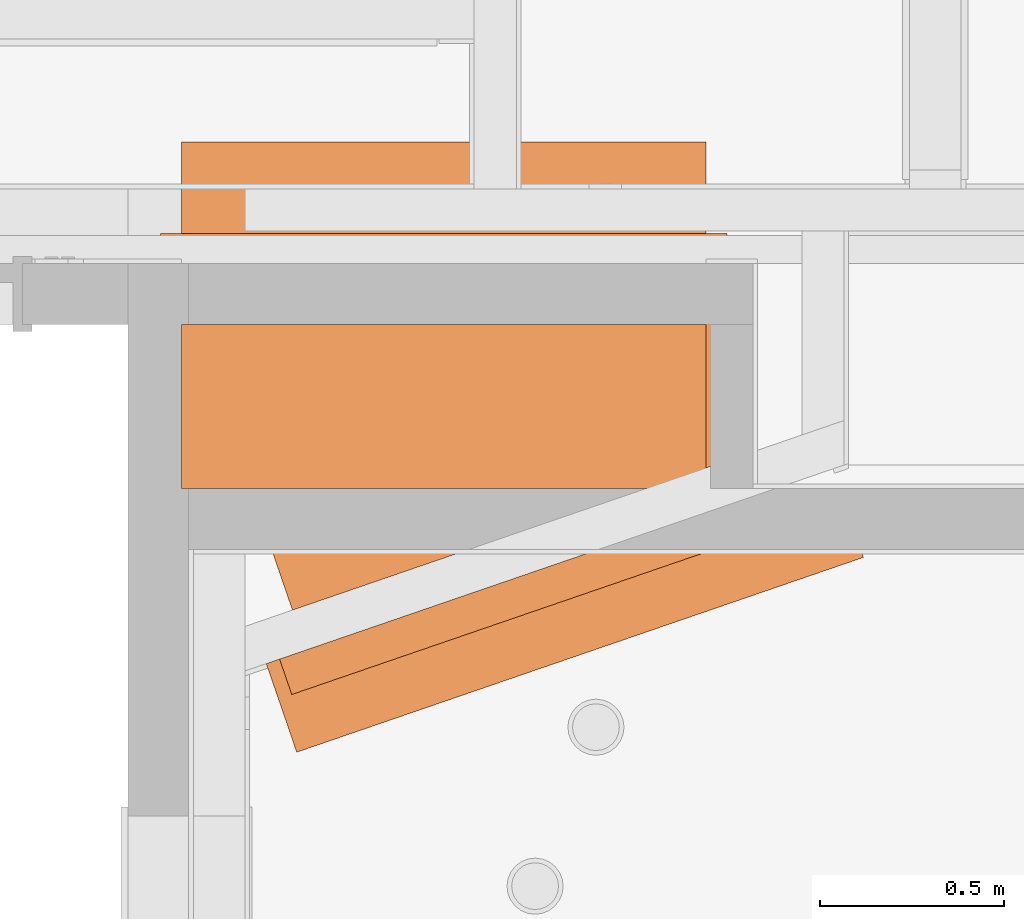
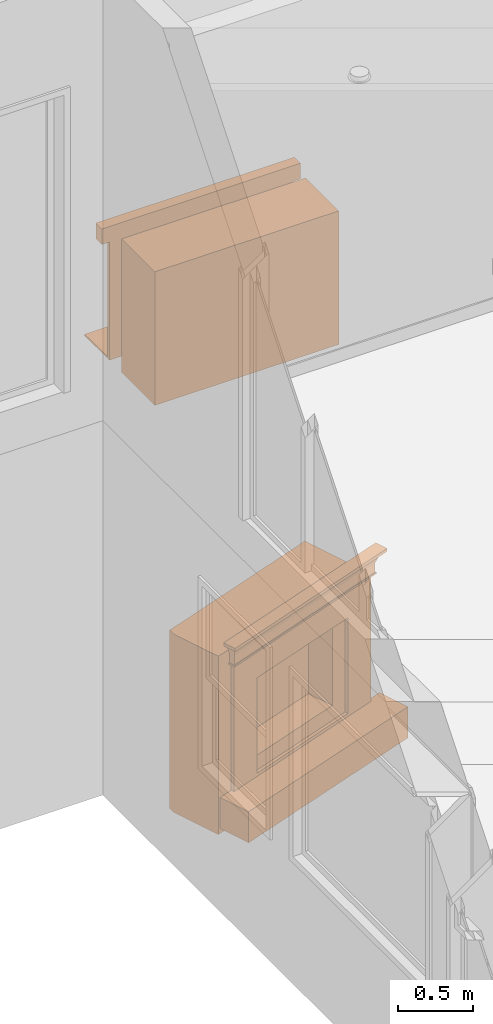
# One storey, part 59 of 60: 2 proxies.
"""IFC2X3 building model written with IfcOpenShell, lengths in feet."""

from ifc_helpers import new_model, entity, si_unit, converted_unit, direction, origin, place, context, subcontext, project, spatial, faceted_brep, source, transform, mapped, material, material_list, type_object, type_shapes, element, save


model = new_model("IFC2X3")

# Units and contexts
model_context = context("Model", 3, precision=0.0001, world=origin(), true_north=direction((6.123031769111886e-17, 1.0)))
plan_context = context("Plan", 3, precision=0.0001, world=origin(), true_north=direction((6.123031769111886e-17, 1.0)))
body_context = subcontext(model_context, "Body", "Model", "MODEL_VIEW")
ifc_project = project(units=[converted_unit("LENGTHUNIT", "FOOT", entity("IfcLengthMeasure", 0.3048), si_unit("LENGTHUNIT", "METRE"), dimensions=[1, 0, 0, 0, 0, 0, 0]), converted_unit("AREAUNIT", "SQUARE FOOT", entity("IfcAreaMeasure", 0.09290304), si_unit("AREAUNIT", "SQUARE_METRE"), dimensions=[2, 0, 0, 0, 0, 0, 0]), converted_unit("PLANEANGLEUNIT", "DEGREE", entity("IfcPlaneAngleMeasure", 0.017453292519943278), si_unit("PLANEANGLEUNIT", "RADIAN"), dimensions=[0, 0, 0, 0, 0, 0, 0])], contexts=[model_context, plan_context])

# Site, building, storey
site_placement = place(None, origin())
site = spatial("IfcSite", under=ifc_project, at=site_placement, Name="Default", CompositionType="ELEMENT")
building_placement = place(site_placement, origin())
building = spatial("IfcBuilding", under=site, at=building_placement, CompositionType="ELEMENT")
storey_placement = place(building_placement, origin())
storey = spatial("IfcBuildingStorey", under=building, at=storey_placement, Name="First floor", CompositionType="ELEMENT", Elevation=0.0)

# Proxies
ifc_material_1 = material(Name="Default New Material")
ifc_material_2 = material(Name="Glass")
ifc_material_list = material_list([ifc_material_1, ifc_material_2])
building_element_proxy_type_1 = type_object("IfcBuildingElementProxyType", Name="Generic Models 16:Generic Models 16", PredefinedType="NOTDEFINED", material=ifc_material_list)
shared_shape_1 = source(origin(), body_context, "Body", "Brep", [
    faceted_brep([(-11.89582225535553, 31.583333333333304, 13.833333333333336), (-11.70832225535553, 31.583333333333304, 13.833333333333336), (-11.70832225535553, 31.583333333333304, 14.250000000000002), (-11.89582225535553, 31.583333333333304, 14.250000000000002), (-11.708322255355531, 31.854166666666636, 14.250000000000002), (-16.74998892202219, 31.85416666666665, 14.250000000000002), (-16.74998892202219, 31.58333333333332, 14.250000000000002), (-16.56248892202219, 31.58333333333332, 14.250000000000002), (-16.56248892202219, 31.66666666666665, 14.250000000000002), (-11.895822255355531, 31.666666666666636, 14.250000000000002), (-11.895822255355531, 31.666666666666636, 13.833333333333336), (-16.56248892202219, 31.66666666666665, 13.833333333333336), (-16.56248892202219, 31.58333333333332, 13.833333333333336), (-16.74998892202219, 31.58333333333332, 13.833333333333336), (-16.74998892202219, 31.85416666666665, 13.833333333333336), (-11.70832225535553, 31.854166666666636, 13.833333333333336)], [[[0, 1, 2, 3]], [[3, 2, 4, 5, 6, 7, 8, 9]], [[0, 3, 9, 10]], [[10, 9, 8, 11]], [[12, 7, 6, 13]], [[11, 8, 7, 12]], [[1, 0, 10, 11, 12, 13, 14, 15]], [[2, 1, 15, 4]], [[4, 15, 14, 5]], [[5, 14, 13, 6]]]),
    faceted_brep([(-16.562488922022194, 31.666666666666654, 10.708333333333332), (-11.895822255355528, 31.66666666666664, 10.708333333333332), (-11.895822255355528, 32.66666666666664, 10.708333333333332), (-16.562488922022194, 32.66666666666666, 10.708333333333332), (-16.562488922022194, 31.666666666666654, 10.666666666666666), (-16.562488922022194, 32.66666666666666, 10.666666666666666), (-11.895822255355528, 32.66666666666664, 10.666666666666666), (-11.895822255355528, 31.66666666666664, 10.666666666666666)], [[[0, 1, 2, 3]], [[4, 5, 6, 7]], [[1, 0, 4, 7]], [[2, 1, 7, 6]], [[3, 2, 6, 5]], [[0, 3, 5, 4]]]),
    faceted_brep([(-12.812488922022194, 31.479166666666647, 12.854166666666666), (-15.64582225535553, 31.479166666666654, 12.854166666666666), (-15.64582225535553, 31.479166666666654, 11.083333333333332), (-12.81248892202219, 31.479166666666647, 11.083333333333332), (-12.812488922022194, 31.520833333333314, 12.854166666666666), (-12.81248892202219, 31.520833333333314, 11.083333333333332), (-15.64582225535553, 31.52083333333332, 11.083333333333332), (-15.64582225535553, 31.52083333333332, 12.854166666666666)], [[[0, 1, 2, 3]], [[4, 5, 6, 7]], [[5, 4, 0, 3]], [[6, 5, 3, 2]], [[7, 6, 2, 1]], [[4, 7, 1, 0]]]),
    faceted_brep([(-15.812488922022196, 31.416666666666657, 13.1875), (-15.812488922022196, 31.416666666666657, 10.812500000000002), (-12.645822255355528, 31.416666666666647, 10.812500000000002), (-12.645822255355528, 31.416666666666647, 13.1875), (-12.812488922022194, 31.416666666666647, 12.854166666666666), (-12.81248892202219, 31.416666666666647, 11.083333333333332), (-15.64582225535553, 31.416666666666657, 11.083333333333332), (-15.64582225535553, 31.416666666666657, 12.854166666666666), (-15.812488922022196, 31.583333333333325, 13.1875), (-12.645822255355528, 31.583333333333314, 13.1875), (-12.645822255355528, 31.583333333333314, 10.812500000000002), (-15.812488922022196, 31.583333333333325, 10.812500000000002), (-12.812488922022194, 31.583333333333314, 12.854166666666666), (-15.64582225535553, 31.583333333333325, 12.854166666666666), (-15.645822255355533, 31.583333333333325, 11.083333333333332), (-12.81248892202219, 31.583333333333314, 11.083333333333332)], [[[0, 1, 2, 3], [4, 5, 6, 7]], [[8, 9, 10, 11], [12, 13, 14, 15]], [[1, 0, 8, 11]], [[2, 1, 11, 10]], [[3, 2, 10, 9]], [[0, 3, 9, 8]], [[5, 4, 12, 15]], [[6, 5, 15, 14]], [[7, 6, 14, 13]], [[4, 7, 13, 12]]]),
    faceted_brep([(-11.895822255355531, 29.583333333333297, 14.250000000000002), (-16.49999999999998, 29.58333333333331, 14.250000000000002), (-16.562488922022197, 29.58333333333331, 14.250000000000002), (-16.562488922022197, 29.58333333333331, 10.666666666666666), (-16.49999999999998, 29.58333333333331, 10.666666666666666), (-11.895822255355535, 29.583333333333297, 10.666666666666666), (-11.89582225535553, 31.041666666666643, 14.250000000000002), (-11.895822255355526, 31.041666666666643, 10.666666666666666), (-16.499999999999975, 31.041666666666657, 10.666666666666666), (-16.562488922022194, 31.041666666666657, 10.666666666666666), (-16.562488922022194, 31.041666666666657, 14.250000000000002), (-16.499999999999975, 31.041666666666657, 14.250000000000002), (-12.64582225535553, 31.041666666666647, 10.812500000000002), (-12.64582225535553, 31.041666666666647, 13.1875), (-15.812488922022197, 31.041666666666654, 13.1875), (-15.812488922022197, 31.041666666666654, 10.812500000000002), (-12.64582225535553, 30.892313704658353, 10.812500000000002), (-15.812488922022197, 30.892313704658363, 10.812500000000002), (-15.812488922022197, 30.892313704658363, 13.1875), (-12.64582225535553, 30.892313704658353, 13.1875)], [[[0, 1, 2, 3, 4, 5]], [[6, 7, 8, 9, 10, 11], [12, 13, 14, 15]], [[0, 5, 7, 6]], [[5, 4, 3, 9, 8, 7]], [[3, 2, 10, 9]], [[2, 1, 0, 6, 11, 10]], [[16, 17, 18, 19]], [[16, 19, 13, 12]], [[19, 18, 14, 13]], [[18, 17, 15, 14]], [[17, 16, 12, 15]]]),
    faceted_brep([(-12.645822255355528, 31.666666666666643, 10.812500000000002), (-12.645822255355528, 31.666666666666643, 13.1875), (-15.812488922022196, 31.666666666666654, 13.1875), (-15.812488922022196, 31.666666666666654, 10.812500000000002), (-11.895822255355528, 31.66666666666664, 10.666666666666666), (-16.562488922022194, 31.666666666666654, 10.666666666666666), (-16.562488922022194, 31.666666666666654, 14.250000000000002), (-11.895822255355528, 31.66666666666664, 14.250000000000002), (-12.645822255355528, 31.58333333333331, 10.812500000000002), (-15.812488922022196, 31.58333333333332, 10.812500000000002), (-15.812488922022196, 31.58333333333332, 13.1875), (-12.645822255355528, 31.58333333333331, 13.1875), (-11.895822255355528, 31.583333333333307, 10.666666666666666), (-11.895822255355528, 31.583333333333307, 14.250000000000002), (-16.562488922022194, 31.58333333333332, 14.250000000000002), (-16.562488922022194, 31.58333333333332, 10.666666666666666)], [[[0, 1, 2, 3], [4, 5, 6, 7]], [[8, 9, 10, 11], [12, 13, 14, 15]], [[0, 3, 9, 8]], [[3, 2, 10, 9]], [[2, 1, 11, 10]], [[1, 0, 8, 11]], [[5, 4, 12, 15]], [[6, 5, 15, 14]], [[7, 6, 14, 13]], [[4, 7, 13, 12]]], outer=[[False, True], [False, True], [True], [True], [True], [True], [True], [True], [True], [True]]),
])
type_shapes(building_element_proxy_type_1, [shared_shape_1])
proxy_1_placement = place(storey_placement, origin())
element("IfcBuildingElementProxy", 1, at=proxy_1_placement, inside=storey, type_object=building_element_proxy_type_1, material=ifc_material_list, Name="Generic Models 16:Generic Models 16", ObjectType="Generic Models 16:Generic Models 16", context=body_context, shape_type="MappedRepresentation", body=[
    mapped(shared_shape_1, transform((0.0, 0.0, 0.0), scale=1.0)),
])
building_element_proxy_type_2 = type_object("IfcBuildingElementProxyType", Name="Generic Models 15:Generic Models 4", PredefinedType="NOTDEFINED", material=ifc_material_1)
shared_shape_2 = source(origin(), body_context, "Body", "Brep", [
    faceted_brep([(-15.690626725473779, 28.06468039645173, 4.916666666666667), (-15.582266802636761, 27.749451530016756, 4.916666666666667), (-10.775026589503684, 29.40194035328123, 4.916666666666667), (-10.883386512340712, 29.717169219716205, 4.916666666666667), (-15.690626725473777, 28.06468039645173, 4.833333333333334), (-10.883386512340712, 29.717169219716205, 4.833333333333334), (-10.775026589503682, 29.40194035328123, 4.833333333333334), (-15.582266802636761, 27.749451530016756, 4.833333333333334)], [[[0, 1, 2, 3]], [[4, 5, 6, 7]], [[1, 0, 4, 7]], [[2, 1, 7, 6]], [[3, 2, 6, 5]], [[0, 3, 5, 4]]]),
    faceted_brep([(-15.61181950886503, 28.091770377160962, 4.833333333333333), (-15.454205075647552, 28.145950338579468, 4.833333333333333), (-15.454205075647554, 28.145950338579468, 4.25), (-15.533012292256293, 28.118860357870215, 4.25), (-15.533012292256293, 28.118860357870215, 4.291666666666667), (-15.513310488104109, 28.125632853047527, 4.291666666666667), (-15.513310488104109, 28.125632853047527, 4.541666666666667), (-15.530549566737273, 27.855348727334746, 4.833333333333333), (-10.880923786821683, 29.453657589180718, 4.833333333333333), (-10.962193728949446, 29.690079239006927, 4.833333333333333), (-11.119808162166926, 29.635899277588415, 4.833333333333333), (-11.092718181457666, 29.557092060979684, 4.833333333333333), (-15.427115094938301, 28.067143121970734, 4.833333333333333), (-15.427115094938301, 28.067143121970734, 4.25), (-11.092718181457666, 29.557092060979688, 4.25), (-11.11980816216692, 29.63589927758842, 4.25), (-11.041000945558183, 29.66298925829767, 4.25), (-10.98682098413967, 29.5053748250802, 4.25), (-15.478832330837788, 27.96124592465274, 4.25), (-15.478832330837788, 27.96124592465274, 4.291666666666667), (-10.986820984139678, 29.505374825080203, 4.291666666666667), (-11.041000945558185, 29.662989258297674, 4.291666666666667), (-11.060702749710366, 29.65621676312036, 4.291666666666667), (-11.013295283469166, 29.518304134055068, 4.291666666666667), (-15.465903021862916, 27.987720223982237, 4.291666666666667), (-15.465903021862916, 27.987720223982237, 4.541666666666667), (-11.013295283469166, 29.518304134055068, 4.541666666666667), (-11.060702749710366, 29.656216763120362, 4.541666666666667)], [[[0, 1, 2, 3, 4, 5, 6]], [[1, 0, 7, 8, 9, 10, 11, 12]], [[2, 1, 12, 13]], [[3, 2, 13, 14, 15, 16, 17, 18]], [[4, 3, 18, 19]], [[5, 4, 19, 20, 21, 22, 23, 24]], [[6, 5, 24, 25]], [[0, 6, 25, 7]], [[13, 12, 11, 14]], [[19, 18, 17, 20]], [[25, 24, 23, 26]], [[7, 25, 26, 8]], [[9, 27, 22, 21, 16, 15, 10]], [[14, 11, 10, 15]], [[20, 17, 16, 21]], [[26, 23, 22, 27]], [[8, 26, 27, 9]]]),
    faceted_brep([(-11.119808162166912, 29.635899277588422, 4.833333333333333), (-15.454205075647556, 28.145950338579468, 4.833333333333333), (-15.427115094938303, 28.06714312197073, 4.833333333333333), (-11.09271818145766, 29.557092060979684, 4.833333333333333), (-11.119808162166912, 29.635899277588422, 4.25), (-11.09271818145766, 29.557092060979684, 4.25), (-15.427115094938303, 28.06714312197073, 4.25), (-15.454205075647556, 28.145950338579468, 4.25)], [[[0, 1, 2, 3]], [[4, 5, 6, 7]], [[1, 0, 4, 7]], [[2, 1, 7, 6]], [[3, 2, 6, 5]], [[0, 3, 5, 4]]]),
    faceted_brep([(-11.241713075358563, 29.990531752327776, -0.532877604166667), (-15.576109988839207, 28.500582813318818, -0.532877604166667), (-16.0, 29.73371739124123, -0.532877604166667), (-16.0, 29.90577201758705, -0.532877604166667), (-11.71849673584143, 31.377538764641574, -0.532877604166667), (-11.241713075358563, 29.990531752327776, 4.25), (-11.71849673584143, 31.377538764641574, 4.25), (-16.0, 29.90577201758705, 4.25), (-16.0, 29.73371739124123, 4.25), (-15.576109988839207, 28.500582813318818, 4.25), (-11.241713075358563, 29.990531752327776, -0.5), (-11.241713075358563, 29.990531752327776, 0.0), (-15.576109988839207, 28.500582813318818, 0.0), (-15.576109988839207, 28.500582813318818, -0.5000000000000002), (-14.84714323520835, 28.751165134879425, 0.916666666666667), (-14.847143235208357, 28.75116513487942, 3.479166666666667), (-11.970679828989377, 29.739949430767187, 3.479166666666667), (-11.970679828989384, 29.739949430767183, 0.916666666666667), (-16.0, 29.73371739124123, 0.0), (-16.0, 29.73371739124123, -0.5000000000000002), (-16.0, 29.90577201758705, 0.0), (-16.0, 29.90577201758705, -0.5000000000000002), (-11.71849673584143, 31.377538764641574, 0.0), (-11.71849673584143, 31.377538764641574, -0.5000000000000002), (-15.07334457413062, 29.409205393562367, 0.916666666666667), (-12.196881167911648, 30.397989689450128, 0.916666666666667), (-12.196881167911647, 30.397989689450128, 3.479166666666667), (-15.07334457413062, 29.409205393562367, 3.479166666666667)], [[[0, 1, 2, 3, 4]], [[5, 6, 7, 8, 9]], [[1, 0, 10, 11, 5, 9, 12, 13], [14, 15, 16, 17]], [[2, 1, 13, 12, 9, 8, 18, 19]], [[3, 2, 19, 18, 8, 7, 20, 21]], [[4, 3, 21, 20, 7, 6, 22, 23]], [[0, 4, 23, 22, 6, 5, 11, 10]], [[24, 25, 26, 27]], [[24, 27, 15, 14]], [[27, 26, 16, 15]], [[26, 25, 17, 16]], [[25, 24, 14, 17]]]),
    faceted_brep([(-14.698148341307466, 28.317725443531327, 3.479166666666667), (-11.821684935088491, 29.306509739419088, 3.479166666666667), (-11.821684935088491, 29.306509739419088, 0.916666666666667), (-14.698148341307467, 28.317725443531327, 0.916666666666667), (-11.092718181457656, 29.557092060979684, 4.25), (-15.4271150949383, 28.06714312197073, 4.25), (-15.4271150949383, 28.06714312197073, 0.8333333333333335), (-11.092718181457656, 29.557092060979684, 0.8333333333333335), (-11.119808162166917, 29.635899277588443, 4.25), (-11.119808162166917, 29.635899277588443, 0.8333333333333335), (-15.454205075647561, 28.14595033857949, 0.8333333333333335), (-15.454205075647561, 28.14595033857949, 4.25), (-14.725238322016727, 28.396532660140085, 3.479166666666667), (-14.725238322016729, 28.396532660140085, 0.916666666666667), (-11.848774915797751, 29.385316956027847, 0.916666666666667), (-11.848774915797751, 29.385316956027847, 3.479166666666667)], [[[0, 1, 2, 3], [4, 5, 6, 7]], [[8, 9, 10, 11], [12, 13, 14, 15]], [[1, 0, 12, 15]], [[2, 1, 15, 14]], [[4, 7, 9, 8]], [[5, 4, 8, 11]], [[6, 5, 11, 10]], [[7, 6, 10, 9]], [[0, 3, 13, 12]], [[3, 2, 14, 13]]], outer=[[False, True], [True, False], [True], [True], [True], [True], [True], [True], [True], [True]]),
    faceted_brep([(-10.765137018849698, 29.757817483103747, 0.8333333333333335), (-15.808798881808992, 28.024058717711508, 0.8333333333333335), (-15.537899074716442, 27.235986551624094, 0.8333333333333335), (-10.494237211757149, 28.969745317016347, 0.8333333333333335), (-10.765137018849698, 29.757817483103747, 0.0), (-10.494237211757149, 28.969745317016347, 0.0), (-15.537899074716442, 27.235986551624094, 0.0), (-15.808798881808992, 28.024058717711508, 0.0)], [[[0, 1, 2, 3]], [[4, 5, 6, 7]], [[1, 0, 4, 7]], [[2, 1, 7, 6]], [[3, 2, 6, 5]], [[0, 3, 5, 4]]]),
])
type_shapes(building_element_proxy_type_2, [shared_shape_2])
proxy_2_placement = place(storey_placement, origin())
element("IfcBuildingElementProxy", 2, at=proxy_2_placement, inside=storey, type_object=building_element_proxy_type_2, material=ifc_material_1, Name="Generic Models 15:Generic Models 4", ObjectType="Generic Models 15:Generic Models 4", context=body_context, shape_type="MappedRepresentation", body=[
    mapped(shared_shape_2, transform((0.0, 0.0, 0.0), scale=1.0)),
])

save(model, "model.ifc")
